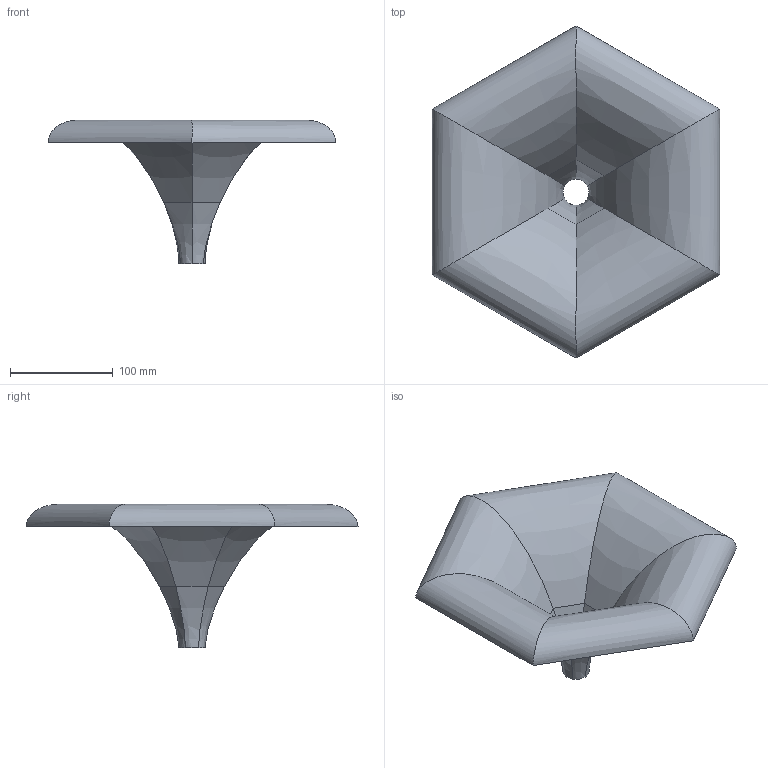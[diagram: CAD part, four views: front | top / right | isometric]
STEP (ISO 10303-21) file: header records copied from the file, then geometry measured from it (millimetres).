
FILE_DESCRIPTION(/* description */ (''),/* implementation_level */ '2;1');
FILE_NAME(/* name */ 'ATHEX-E-280-25 v3.step',/* time_stamp */ '2023-08-08T11:36:10+02:00',/* author */ (''),/* organization */ (''),/* preprocessor_version */ 'ST-DEVELOPER v20',/* originating_system */ 'Autodesk Translation Framework v12.9.0.99',/* authorisation */ '');
FILE_SCHEMA (('AUTOMOTIVE_DESIGN { 1 0 10303 214 3 1 1 }'));
Length unit declared in the file: millimetre
Products named in the file (1): ATHEX-E-280-25
Bounding box: 280 x 323.32 x 139.69 mm (x, y, z)
Surface area: 96273.4 mm2 (no closed solid volume)
Topology: 0 solids, 1 shells, 12 faces, 36 edges, 24 vertices
Faces by surface type: bspline 12
Entity records: 2140 total; most frequent: CARTESIAN_POINT 1861, ORIENTED_EDGE 60, EDGE_CURVE 36, DIRECTION 26, VERTEX_POINT 24, FACE_OUTER_BOUND 12, EDGE_LOOP 12, LINE 12
